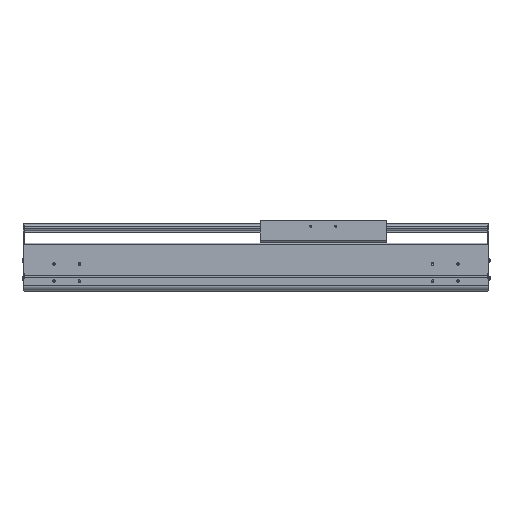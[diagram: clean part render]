
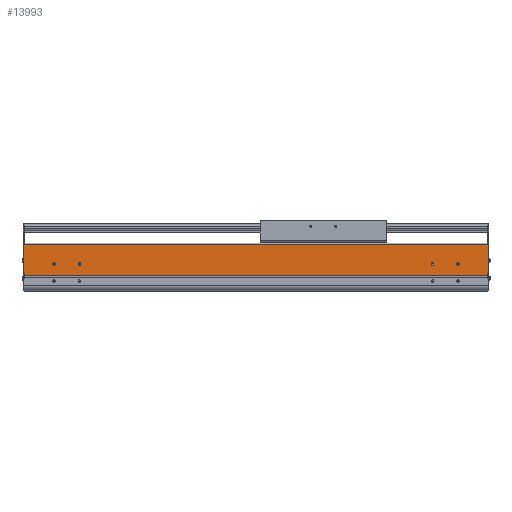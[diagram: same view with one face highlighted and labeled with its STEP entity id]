
A CAD part, top view. The second image highlights one B-rep face of the part: STEP entity #13993.
In plain terms, the highlighted planar face has unit normal (0, 0, 1).
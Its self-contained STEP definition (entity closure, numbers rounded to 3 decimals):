
#518=DIRECTION('',(0.,-1.,0.));
#519=VECTOR('',#518,2.55);
#520=CARTESIAN_POINT('',(0.,34.65,107.));
#521=LINE('',#520,#519);
#2171=DIRECTION('',(1.,0.,0.));
#2172=VECTOR('',#2171,2.);
#2173=CARTESIAN_POINT('',(0.,34.65,107.));
#2174=LINE('',#2173,#2172);
#2179=CARTESIAN_POINT('',(-59.5,54.,107.));
#2180=DIRECTION('',(0.,0.,-1.));
#2181=DIRECTION('',(1.,0.,0.));
#2182=AXIS2_PLACEMENT_3D('',#2179,#2180,#2181);
#2184=CARTESIAN_POINT('',(-59.5,54.,107.));
#2185=DIRECTION('',(0.,0.,-1.));
#2186=DIRECTION('',(-1.,0.,0.));
#2187=AXIS2_PLACEMENT_3D('',#2184,#2185,#2186);
#2189=CARTESIAN_POINT('',(-109.5,54.,107.));
#2190=DIRECTION('',(0.,0.,-1.));
#2191=DIRECTION('',(1.,0.,0.));
#2192=AXIS2_PLACEMENT_3D('',#2189,#2190,#2191);
#2194=CARTESIAN_POINT('',(-109.5,54.,107.));
#2195=DIRECTION('',(0.,0.,-1.));
#2196=DIRECTION('',(-1.,0.,0.));
#2197=AXIS2_PLACEMENT_3D('',#2194,#2195,#2196);
#2199=CARTESIAN_POINT('',(-859.5,54.,107.));
#2200=DIRECTION('',(0.,0.,-1.));
#2201=DIRECTION('',(1.,0.,0.));
#2202=AXIS2_PLACEMENT_3D('',#2199,#2200,#2201);
#2204=CARTESIAN_POINT('',(-859.5,54.,107.));
#2205=DIRECTION('',(0.,0.,-1.));
#2206=DIRECTION('',(-1.,0.,0.));
#2207=AXIS2_PLACEMENT_3D('',#2204,#2205,#2206);
#2209=CARTESIAN_POINT('',(-809.5,54.,107.));
#2210=DIRECTION('',(0.,0.,-1.));
#2211=DIRECTION('',(1.,0.,0.));
#2212=AXIS2_PLACEMENT_3D('',#2209,#2210,#2211);
#2214=CARTESIAN_POINT('',(-809.5,54.,107.));
#2215=DIRECTION('',(0.,0.,-1.));
#2216=DIRECTION('',(-1.,0.,0.));
#2217=AXIS2_PLACEMENT_3D('',#2214,#2215,#2216);
#2219=DIRECTION('',(0.,-1.,0.));
#2220=VECTOR('',#2219,2.55);
#2221=CARTESIAN_POINT('',(-919.,34.65,107.));
#2222=LINE('',#2221,#2220);
#2223=DIRECTION('',(0.,-1.,0.));
#2224=VECTOR('',#2223,58.85);
#2225=CARTESIAN_POINT('',(-921.,93.5,107.));
#2226=LINE('',#2225,#2224);
#2227=DIRECTION('',(0.,1.,0.));
#2228=VECTOR('',#2227,58.85);
#2229=CARTESIAN_POINT('',(2.,34.65,107.));
#2230=LINE('',#2229,#2228);
#2231=DIRECTION('',(1.,0.,0.));
#2232=VECTOR('',#2231,919.);
#2233=CARTESIAN_POINT('',(-919.,32.1,107.));
#2234=LINE('',#2233,#2232);
#2343=DIRECTION('',(1.,0.,0.));
#2344=VECTOR('',#2343,2.);
#2345=CARTESIAN_POINT('',(-921.,34.65,107.));
#2346=LINE('',#2345,#2344);
#2355=DIRECTION('',(-1.,0.,0.));
#2356=VECTOR('',#2355,923.);
#2357=CARTESIAN_POINT('',(2.,93.5,107.));
#2358=LINE('',#2357,#2356);
#8989=CARTESIAN_POINT('',(-921.,34.65,107.));
#8990=VERTEX_POINT('',#8989);
#8991=CARTESIAN_POINT('',(-921.,93.5,107.));
#8992=VERTEX_POINT('',#8991);
#9221=CARTESIAN_POINT('',(-919.,32.1,107.));
#9222=VERTEX_POINT('',#9221);
#9481=CARTESIAN_POINT('',(0.,32.1,107.));
#9482=VERTEX_POINT('',#9481);
#9483=CARTESIAN_POINT('',(-57.,54.,107.));
#9484=CARTESIAN_POINT('',(-62.,54.,107.));
#9485=VERTEX_POINT('',#9483);
#9486=VERTEX_POINT('',#9484);
#9487=CARTESIAN_POINT('',(-107.,54.,107.));
#9488=CARTESIAN_POINT('',(-112.,54.,107.));
#9489=VERTEX_POINT('',#9487);
#9490=VERTEX_POINT('',#9488);
#9491=CARTESIAN_POINT('',(-857.,54.,107.));
#9492=CARTESIAN_POINT('',(-862.,54.,107.));
#9493=VERTEX_POINT('',#9491);
#9494=VERTEX_POINT('',#9492);
#9495=CARTESIAN_POINT('',(-807.,54.,107.));
#9496=CARTESIAN_POINT('',(-812.,54.,107.));
#9497=VERTEX_POINT('',#9495);
#9498=VERTEX_POINT('',#9496);
#10118=CARTESIAN_POINT('',(2.,34.65,107.));
#10119=VERTEX_POINT('',#10118);
#10120=CARTESIAN_POINT('',(2.,93.5,107.));
#10121=VERTEX_POINT('',#10120);
#10572=CARTESIAN_POINT('',(0.,34.65,107.));
#10573=VERTEX_POINT('',#10572);
#10652=CARTESIAN_POINT('',(-919.,34.65,107.));
#10653=VERTEX_POINT('',#10652);
#13951=CARTESIAN_POINT('',(-459.5,62.8,107.));
#13952=DIRECTION('',(0.,0.,1.));
#13953=DIRECTION('',(0.,-1.,0.));
#13954=AXIS2_PLACEMENT_3D('',#13951,#13952,#13953);
#13955=PLANE('',#13954);
#13956=ORIENTED_EDGE('',*,*,#11452,.F.);
#13958=ORIENTED_EDGE('',*,*,#13957,.F.);
#13959=ORIENTED_EDGE('',*,*,#12549,.F.);
#13961=ORIENTED_EDGE('',*,*,#13960,.F.);
#13962=ORIENTED_EDGE('',*,*,#13749,.F.);
#13963=ORIENTED_EDGE('',*,*,#13944,.F.);
#13964=ORIENTED_EDGE('',*,*,#12067,.T.);
#13966=ORIENTED_EDGE('',*,*,#13965,.F.);
#13967=EDGE_LOOP('',(#13956,#13958,#13959,#13961,#13962,#13963,#13964,#13966));
#13968=FACE_OUTER_BOUND('',#13967,.F.);
#13970=ORIENTED_EDGE('',*,*,#13969,.F.);
#13972=ORIENTED_EDGE('',*,*,#13971,.F.);
#13973=EDGE_LOOP('',(#13970,#13972));
#13974=FACE_BOUND('',#13973,.F.);
#13976=ORIENTED_EDGE('',*,*,#13975,.F.);
#13978=ORIENTED_EDGE('',*,*,#13977,.F.);
#13979=EDGE_LOOP('',(#13976,#13978));
#13980=FACE_BOUND('',#13979,.F.);
#13982=ORIENTED_EDGE('',*,*,#13981,.F.);
#13984=ORIENTED_EDGE('',*,*,#13983,.F.);
#13985=EDGE_LOOP('',(#13982,#13984));
#13986=FACE_BOUND('',#13985,.F.);
#13988=ORIENTED_EDGE('',*,*,#13987,.F.);
#13990=ORIENTED_EDGE('',*,*,#13989,.F.);
#13991=EDGE_LOOP('',(#13988,#13990));
#13992=FACE_BOUND('',#13991,.F.);
#13993=ADVANCED_FACE('',(#13968,#13974,#13980,#13986,#13992),#13955,.T.);
#2183=CIRCLE('',#2182,2.5);
#2188=CIRCLE('',#2187,2.5);
#2193=CIRCLE('',#2192,2.5);
#2198=CIRCLE('',#2197,2.5);
#2203=CIRCLE('',#2202,2.5);
#2208=CIRCLE('',#2207,2.5);
#2213=CIRCLE('',#2212,2.5);
#2218=CIRCLE('',#2217,2.5);
#11452=EDGE_CURVE('',#10653,#9222,#2222,.T.);
#12067=EDGE_CURVE('',#10573,#9482,#521,.T.);
#12549=EDGE_CURVE('',#8992,#8990,#2226,.T.);
#13749=EDGE_CURVE('',#10119,#10121,#2230,.T.);
#13944=EDGE_CURVE('',#10573,#10119,#2174,.T.);
#13957=EDGE_CURVE('',#8990,#10653,#2346,.T.);
#13960=EDGE_CURVE('',#10121,#8992,#2358,.T.);
#13965=EDGE_CURVE('',#9222,#9482,#2234,.T.);
#13969=EDGE_CURVE('',#9489,#9490,#2193,.T.);
#13971=EDGE_CURVE('',#9490,#9489,#2198,.T.);
#13975=EDGE_CURVE('',#9493,#9494,#2203,.T.);
#13977=EDGE_CURVE('',#9494,#9493,#2208,.T.);
#13981=EDGE_CURVE('',#9497,#9498,#2213,.T.);
#13983=EDGE_CURVE('',#9498,#9497,#2218,.T.);
#13987=EDGE_CURVE('',#9485,#9486,#2183,.T.);
#13989=EDGE_CURVE('',#9486,#9485,#2188,.T.);
